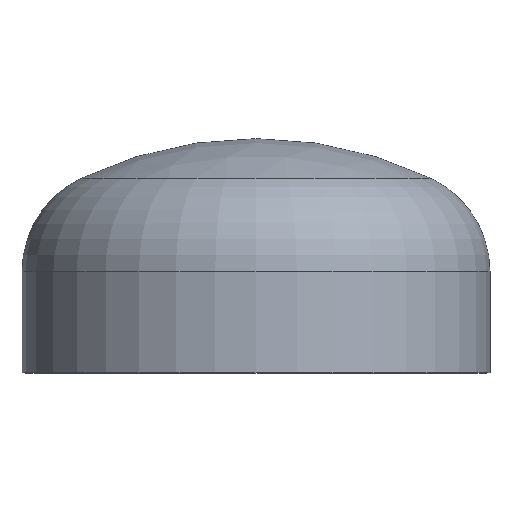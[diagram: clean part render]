
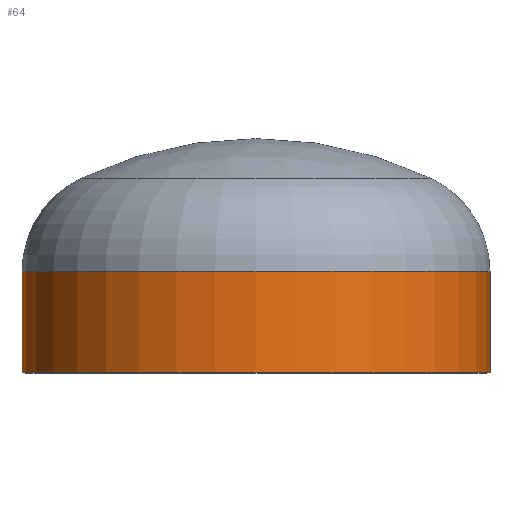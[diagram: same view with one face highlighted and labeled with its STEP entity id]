
A CAD part, top view. The second image highlights one B-rep face of the part: STEP entity #64.
In plain terms, the highlighted cylindrical face has radius 254 mm (diameter 508 mm), a partial arc.
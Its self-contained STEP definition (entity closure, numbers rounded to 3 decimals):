
#1 = CARTESIAN_POINT ( 'NONE',  ( 254., 110., 0. ) ) ;
#44 = VERTEX_POINT ( 'NONE', #248 ) ;
#57 = VERTEX_POINT ( 'NONE', #283 ) ;
#64 = ADVANCED_FACE ( 'NONE', ( #307 ), #367, .T. ) ;
#68 = CARTESIAN_POINT ( 'NONE',  ( -254., 0., 0. ) ) ;
#77 = AXIS2_PLACEMENT_3D ( 'NONE', #246, #264, #374 ) ;
#78 = AXIS2_PLACEMENT_3D ( 'NONE', #237, #345, #342 ) ;
#81 = VECTOR ( 'NONE', #333, 1000. ) ;
#82 = EDGE_CURVE ( 'NONE', #132, #57, #191, .T. ) ;
#83 = ORIENTED_EDGE ( 'NONE', *, *, #402, .F. ) ;
#108 = EDGE_LOOP ( 'NONE', ( #179, #131, #83, #153 ) ) ;
#116 = VERTEX_POINT ( 'NONE', #189 ) ;
#131 = ORIENTED_EDGE ( 'NONE', *, *, #396, .T. ) ;
#132 = VERTEX_POINT ( 'NONE', #1 ) ;
#153 = ORIENTED_EDGE ( 'NONE', *, *, #348, .F. ) ;
#177 = VECTOR ( 'NONE', #387, 1000. ) ;
#179 = ORIENTED_EDGE ( 'NONE', *, *, #82, .T. ) ;
#189 = CARTESIAN_POINT ( 'NONE',  ( 254., 0., 0. ) ) ;
#191 = CIRCLE ( 'NONE', #78, 254. ) ;
#205 = DIRECTION ( 'NONE',  ( 0., -1., 0. ) ) ;
#237 = CARTESIAN_POINT ( 'NONE',  ( 0., 110., 0. ) ) ;
#239 = LINE ( 'NONE', #68, #177 ) ;
#246 = CARTESIAN_POINT ( 'NONE',  ( 0., 0., 0. ) ) ;
#248 = CARTESIAN_POINT ( 'NONE',  ( -254., 0., 0. ) ) ;
#264 = DIRECTION ( 'NONE',  ( 0., -1., 0. ) ) ;
#265 = LINE ( 'NONE', #361, #81 ) ;
#283 = CARTESIAN_POINT ( 'NONE',  ( -254., 110., 0. ) ) ;
#307 = FACE_OUTER_BOUND ( 'NONE', #108, .T. ) ;
#333 = DIRECTION ( 'NONE',  ( 0., -1., 0. ) ) ;
#337 = CARTESIAN_POINT ( 'NONE',  ( 0., 0., 0. ) ) ;
#342 = DIRECTION ( 'NONE',  ( 1., 0., 0. ) ) ;
#345 = DIRECTION ( 'NONE',  ( 0., -1., 0. ) ) ;
#348 = EDGE_CURVE ( 'NONE', #132, #116, #265, .T. ) ;
#361 = CARTESIAN_POINT ( 'NONE',  ( 254., 0., 0. ) ) ;
#363 = CIRCLE ( 'NONE', #383, 254. ) ;
#364 = DIRECTION ( 'NONE',  ( 1., 0., 0. ) ) ;
#367 = CYLINDRICAL_SURFACE ( 'NONE', #77, 254. ) ;
#374 = DIRECTION ( 'NONE',  ( 1., 0., 0. ) ) ;
#383 = AXIS2_PLACEMENT_3D ( 'NONE', #337, #205, #364 ) ;
#387 = DIRECTION ( 'NONE',  ( 0., -1., 0. ) ) ;
#396 = EDGE_CURVE ( 'NONE', #57, #44, #239, .T. ) ;
#402 = EDGE_CURVE ( 'NONE', #116, #44, #363, .T. ) ;
